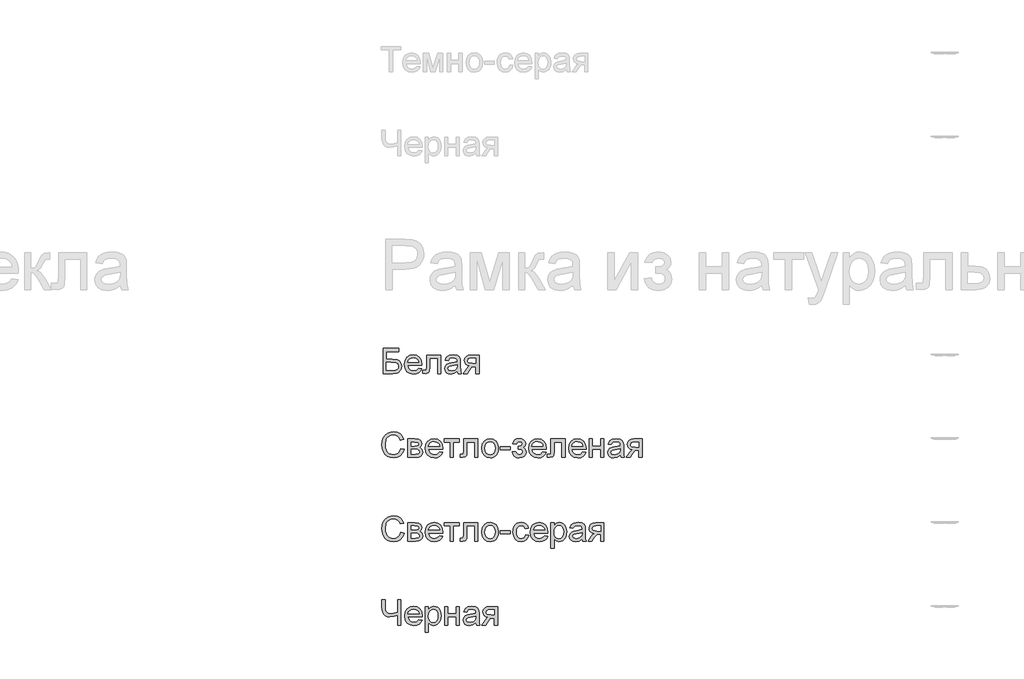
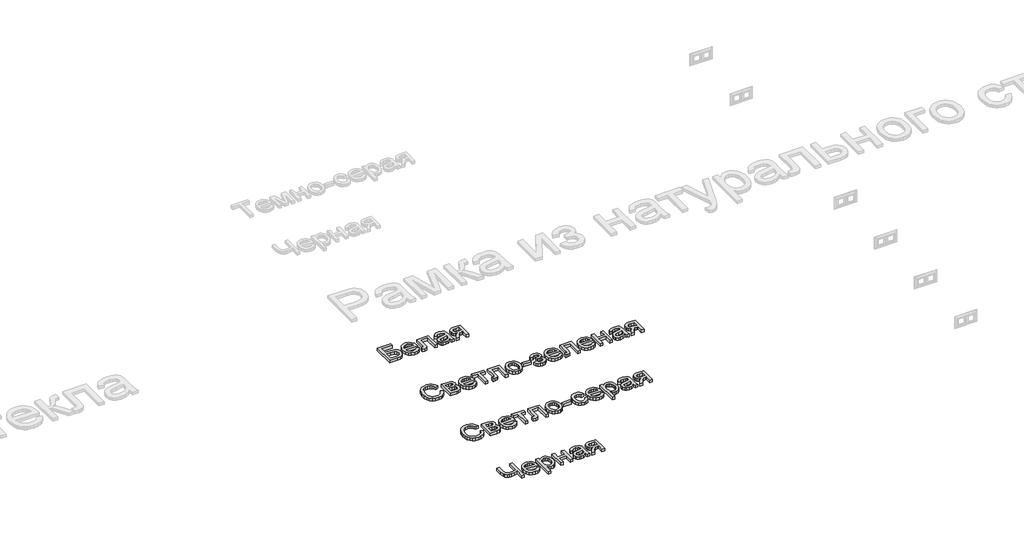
# One storey, part 103 of 168: 4 proxies.
"""IFC4 building model written with IfcOpenShell, lengths in millimetres."""

from ifc_helpers import new_model, si_unit, origin, origin_with_axes, place, context, project, spatial, polyline, outline, extrude, element, save

model = new_model("IFC4")

# Units and contexts
model_context = context("Model", 3, world=origin())
ifc_project = project(units=[si_unit("LENGTHUNIT", "METRE", prefix="MILLI")], contexts=[model_context])

# Site, building, storey
site = spatial("IfcSite", under=ifc_project)
building = spatial("IfcBuilding", under=site)
storey = spatial("IfcBuildingStorey", under=building, Name="Этаж 01", Elevation=0.0)

# Proxies
placement = place(None, origin())
element("IfcBuildingElementProxy", 1, Name="150", ObjectType="150", at=placement, inside=storey, context=model_context, shape_type="SweptSolid", body=[
    extrude(outline(polyline([(40282.6133883, -16697.7212163), (40376.791179, -16697.7212163), (40376.791179, -16716.5567745), (40301.4489464, -16716.5567745), (40301.4489464, -16761.2912251), (40336.7288298, -16761.2912251), (40367.8148584, -16765.1171979), (40378.2167218, -16770.6446248), (40386.3193227, -16779.5749603), (40391.53405, -16791.0712726), (40393.2722924, -16804.2966303), (40388.3242796, -16825.7625448), (40373.5538175, -16842.0781113), (40360.2824745, -16846.823789), (40340.1133441, -16848.4056816), (40282.6133883, -16848.4056816), (40282.6133883, -16697.7212163)]), holes=[polyline([(40301.4489464, -16829.5701234), (40341.8056013, -16829.5701234), (40356.0702257, -16828.015822), (40366.269754, -16823.3529177), (40372.3949892, -16815.5814105), (40374.4367343, -16804.7013005), (40369.7646329, -16789.9492325), (40356.7600044, -16782.0765578), (40328.3779085, -16780.1267833), (40301.4489464, -16780.1267833), (40301.4489464, -16829.5701234)])]), origin_with_axes(), (0.0, 0.0, 1.0), 20.0),
    extrude(outline(polyline([(40494.2926883, -16815.4434548), (40512.7603645, -16817.7978996), (40506.1062989, -16831.713036), (40495.4883048, -16842.1148995), (40481.1455055, -16848.5988196), (40463.3170243, -16850.7601263), (40441.2165134, -16847.0307226), (40424.2111682, -16835.8425114), (40413.3678464, -16817.9220597), (40409.7534058, -16793.9959345), (40413.4046346, -16769.2650674), (40424.358321, -16750.7698), (40441.13374, -16739.2366995), (40462.2501665, -16735.3923327), (40482.709004, -16739.2275025), (40499.0567601, -16750.7330118), (40509.7759218, -16769.191491), (40513.3489756, -16793.8855699), (40513.2386111, -16798.9623414), (40428.588964, -16798.9623414), (40431.8493181, -16813.0614189), (40439.4230887, -16823.4264941), (40450.3537825, -16829.8000497), (40463.6849063, -16831.9245682), (40482.1525825, -16827.9882308), (40494.2926883, -16815.4434548)]), holes=[polyline([(40428.588964, -16780.1267833), (40494.5134175, -16780.1267833), (40491.9658347, -16770.1755753), (40486.9718366, -16763.0570587), (40475.990559, -16756.4351828), (40462.1765901, -16754.2278908), (40449.4800628, -16755.9891259), (40438.9816303, -16761.272831), (40431.6837712, -16769.5087892), (40428.588964, -16780.1267833)])]), origin_with_axes(), (0.0, 0.0, 1.0), 20.0),
    extrude(outline(polyline([(40541.6023129, -16737.7467774), (40626.3623246, -16737.7467774), (40626.3623246, -16848.295317), (40607.5267664, -16848.295317), (40607.5267664, -16756.5823356), (40560.437871, -16756.5823356), (40560.437871, -16809.3734019), (40559.1686781, -16833.72719), (40552.1973143, -16844.0094917), (40535.716201, -16848.4056816), (40520.41231, -16847.4491884), (40520.41231, -16829.5701234), (40528.8368076, -16829.5701234), (40537.3532758, -16828.4112951), (40540.7561843, -16824.7324752), (40541.6023129, -16808.3065441), (40541.6023129, -16737.7467774)])), origin_with_axes(), (0.0, 0.0, 1.0), 20.0),
    extrude(outline(polyline([(40725.2490049, -16834.279013), (40706.9836638, -16847.0445182), (40686.8053364, -16850.7601263), (40671.0645855, -16848.5252432), (40659.45331, -16841.8205939), (40652.2934067, -16831.6394596), (40649.9067723, -16818.975122), (40653.5120158, -16804.0759012), (40662.9849772, -16793.2601705), (40676.1735467, -16787.079753), (40692.4707191, -16784.2470616), (40725.1386403, -16777.7723385), (40725.2490049, -16773.5784838), (40723.9522208, -16765.1723802), (40720.0618687, -16759.6725443), (40711.3614596, -16755.5890542), (40699.2397478, -16754.2278908), (40680.1834605, -16757.8515285), (40671.0967752, -16770.7090042), (40652.261217, -16768.3545594), (40660.4098032, -16749.9604597), (40676.8173402, -16739.1815172), (40701.667769, -16735.3923327), (40724.4948468, -16738.7400588), (40737.3891107, -16747.1461624), (40743.164858, -16759.9300617), (40744.084563, -16776.4111751), (40744.084563, -16799.8452582), (40745.0410562, -16832.5683617), (40748.7934526, -16848.4056816), (40729.9578944, -16848.4056816), (40725.2490049, -16834.279013)]), holes=[polyline([(40725.2490049, -16796.6078966), (40694.8619521, -16802.383644), (40678.6567502, -16805.4370645), (40671.3175044, -16810.4034715), (40668.7423304, -16817.6507468), (40674.3525308, -16827.841078), (40690.8152501, -16831.9245682), (40709.8715375, -16827.4180137), (40722.1587961, -16816.5103126), (40725.1386403, -16801.9421856), (40725.2490049, -16796.6078966)])]), origin_with_axes(), (0.0, 0.0, 1.0), 20.0),
    extrude(outline(polyline([(40854.7434672, -16737.7467774), (40854.7434672, -16848.4056816), (40835.907909, -16848.4056816), (40835.907909, -16806.0256757), (40825.6440014, -16806.0256757), (40811.6644855, -16808.4169087), (40798.5310983, -16824.4933519), (40783.5215129, -16848.4056816), (40761.7428988, -16848.4056816), (40780.6520333, -16818.1657816), (40789.0029546, -16807.3132627), (40796.6916883, -16802.4940086), (40783.8158185, -16798.5484742), (40774.7659214, -16791.0528785), (40769.4132384, -16781.0832765), (40767.6290107, -16769.7157228), (40770.0662289, -16756.8214589), (40777.3778836, -16746.6127335), (40789.3064573, -16739.9632664), (40805.5944326, -16737.7467774), (40854.7434672, -16737.7467774)]), holes=[polyline([(40835.907909, -16756.5823356), (40811.0758743, -16756.5823356), (40798.2505883, -16757.672186), (40790.9711233, -16760.9417372), (40786.4645689, -16771.1504626), (40788.1246364, -16778.32876), (40793.1048389, -16783.3089625), (40816.6308925, -16787.1901176), (40835.907909, -16787.1901176), (40835.907909, -16756.5823356)])]), origin_with_axes(), (0.0, 0.0, 1.0), 20.0),
])
element("IfcBuildingElementProxy", 2, Name="150", ObjectType="150", at=placement, inside=storey, context=model_context, shape_type="SweptSolid", body=[
    extrude(outline(polyline([(40388.5634029, -17294.8420631), (40407.398961, -17299.6981054), (40398.7077489, -17321.6468649), (40385.0685239, -17337.6819214), (40367.1526708, -17347.4905751), (40345.631574, -17350.7601263), (40323.7839821, -17348.2861199), (40306.4337475, -17340.8641007), (40293.1348133, -17328.751586), (40283.4411228, -17312.2060932), (40277.5228212, -17292.7543327), (40275.550054, -17271.9230148), (40277.7803386, -17249.9512626), (40284.4711923, -17230.9777487), (40295.2731274, -17215.6048798), (40309.8366559, -17204.4350628), (40327.1087156, -17197.6338444), (40346.0362442, -17195.3667716), (40366.6882197, -17198.3006305), (40383.7625428, -17207.1022072), (40396.7257847, -17221.2288758), (40405.0445163, -17240.1380104), (40386.2089581, -17244.6261707), (40379.6790527, -17230.8903767), (40370.7579143, -17221.4679991), (40359.3351784, -17216.0187471), (40345.3004803, -17214.2023297), (40329.1228695, -17216.2164837), (40315.8331324, -17222.2589454), (40305.7485672, -17231.6951186), (40299.1864722, -17243.8904067), (40294.3856121, -17271.8862266), (40295.8065563, -17289.2870449), (40300.0693889, -17304.3334185), (40307.3350583, -17316.4505318), (40317.7645129, -17325.063569), (40330.2679022, -17330.2093184), (40343.7553759, -17331.9245682), (40359.4777326, -17329.5885175), (40372.5789302, -17322.5803655), (40382.4703573, -17310.9736886), (40388.5634029, -17294.8420631)])), origin_with_axes(), (0.0, 0.0, 1.0), 20.0),
    extrude(outline(polyline([(40430.9434087, -17237.7467774), (40472.4404978, -17237.7467774), (40495.1939992, -17240.2667691), (40507.9962926, -17249.5006072), (40513.3489756, -17265.5954445), (40510.1116141, -17278.6736494), (40500.3627412, -17287.999458), (40513.0178819, -17298.2081833), (40518.0578652, -17315.9584896), (40514.8664889, -17330.3150845), (40507.2789227, -17340.4226423), (40495.2675756, -17346.4099217), (40478.8048563, -17348.4056816), (40430.9434087, -17348.4056816), (40430.9434087, -17237.7467774)]), holes=[polyline([(40449.7789669, -17280.1267833), (40468.3937958, -17280.1267833), (40483.7528691, -17279.1702901), (40491.2208736, -17275.3443173), (40494.5134175, -17268.4281358), (40493.0694807, -17262.8087383), (40488.7376702, -17259.1942977), (40468.982407, -17256.5823356), (40449.7789669, -17256.5823356), (40449.7789669, -17280.1267833)]), polyline([(40449.7789669, -17329.5701234), (40472.8819562, -17329.5701234), (40493.3729833, -17326.167215), (40497.6128233, -17321.5273033), (40499.222307, -17314.4133852), (40496.0033396, -17305.345094), (40487.6156301, -17300.0659874), (40471.0425462, -17298.9623414), (40449.7789669, -17298.9623414), (40449.7789669, -17329.5701234)])]), origin_with_axes(), (0.0, 0.0, 1.0), 20.0),
    extrude(outline(polyline([(40619.0782611, -17315.4434548), (40637.5459372, -17317.7978996), (40630.8918716, -17331.713036), (40620.2738775, -17342.1148995), (40605.9310783, -17348.5988196), (40588.1025971, -17350.7601263), (40566.0020862, -17347.0307226), (40548.996741, -17335.8425114), (40538.1534192, -17317.9220597), (40534.5389786, -17293.9959345), (40538.1902074, -17269.2650674), (40549.1438938, -17250.7698), (40565.9193128, -17239.2366995), (40587.0357393, -17235.3923327), (40607.4945767, -17239.2275025), (40623.8423329, -17250.7330118), (40634.5614945, -17269.191491), (40638.1345484, -17293.8855699), (40638.0241838, -17298.9623414), (40553.3745367, -17298.9623414), (40556.6348909, -17313.0614189), (40564.2086615, -17323.4264941), (40575.1393553, -17329.8000497), (40588.4704791, -17331.9245682), (40606.9381552, -17327.9882308), (40619.0782611, -17315.4434548)]), holes=[polyline([(40553.3745367, -17280.1267833), (40619.2989903, -17280.1267833), (40616.7514074, -17270.1755753), (40611.7574094, -17263.0570587), (40600.7761318, -17256.4351828), (40586.9621629, -17254.2278908), (40574.2656355, -17255.9891259), (40563.7672031, -17261.272831), (40556.469344, -17269.5087892), (40553.3745367, -17280.1267833)])]), origin_with_axes(), (0.0, 0.0, 1.0), 20.0),
    extrude(outline(polyline([(40647.5523275, -17237.7467774), (40737.0212287, -17237.7467774), (40737.0212287, -17256.5823356), (40701.7045572, -17256.5823356), (40701.7045572, -17348.4056816), (40682.868999, -17348.4056816), (40682.868999, -17256.5823356), (40647.5523275, -17256.5823356), (40647.5523275, -17237.7467774)])), origin_with_axes(), (0.0, 0.0, 1.0), 20.0),
    extrude(outline(polyline([(40762.9201212, -17237.7467774), (40847.6801329, -17237.7467774), (40847.6801329, -17348.295317), (40828.8445747, -17348.295317), (40828.8445747, -17256.5823356), (40781.7556793, -17256.5823356), (40781.7556793, -17309.3734019), (40780.4864864, -17333.72719), (40773.5151226, -17344.0094917), (40757.0340093, -17348.4056816), (40741.7301183, -17347.4491884), (40741.7301183, -17329.5701234), (40750.1546159, -17329.5701234), (40758.6710841, -17328.4112951), (40762.0739926, -17324.7324752), (40762.9201212, -17308.3065441), (40762.9201212, -17237.7467774)])), origin_with_axes(), (0.0, 0.0, 1.0), 20.0),
    extrude(outline(polyline([(40871.2245806, -17293.0762295), (40875.2988737, -17266.3955878), (40887.5217529, -17247.6428031), (40902.6233088, -17238.4549503), (40920.7047089, -17235.3923327), (40940.4921617, -17239.1217364), (40956.2972919, -17250.3099476), (40966.6577686, -17268.0740494), (40970.1112609, -17291.5311251), (40968.5845506, -17310.5598213), (40964.0044197, -17325.0451749), (40956.5042256, -17335.8930952), (40946.2173253, -17344.0094917), (40933.9990445, -17349.0724677), (40920.7047089, -17350.7601263), (40900.6781328, -17347.0445182), (40884.8913967, -17335.8976937), (40874.6412846, -17317.7611114), (40871.2245806, -17293.0762295)]), holes=[polyline([(40890.0601387, -17293.0394413), (40892.2398395, -17310.0861732), (40898.778942, -17322.2308776), (40908.6197854, -17329.5011455), (40920.7047089, -17331.9245682), (40932.7344502, -17329.48735), (40942.5568994, -17322.1756953), (40949.0960019, -17309.8700426), (40951.2757027, -17292.4508301), (40949.0822063, -17275.9007388), (40942.5017171, -17263.9215814), (40932.6654723, -17256.6513134), (40920.7047089, -17254.2278908), (40908.6197854, -17256.6421164), (40898.778942, -17263.8847932), (40892.2398395, -17276.0019064), (40890.0601387, -17293.0394413)])]), origin_with_axes(), (0.0, 0.0, 1.0), 20.0),
    extrude(outline(polyline([(40981.8834847, -17303.671231), (40981.8834847, -17284.8356728), (41040.7446039, -17284.8356728), (41040.7446039, -17303.671231), (40981.8834847, -17303.671231)])), origin_with_axes(), (0.0, 0.0, 1.0), 20.0),
    extrude(outline(polyline([(41087.8334993, -17298.9623414), (41087.8334993, -17280.1267833), (41102.6959319, -17279.3910193), (41110.2007246, -17275.473076), (41113.7323918, -17267.2877016), (41109.0051081, -17257.7779521), (41096.80982, -17254.2278908), (41084.2098617, -17257.759558), (41076.0612755, -17268.3545594), (41054.8712725, -17266.0001146), (41060.49067, -17252.60921), (41069.0347294, -17243.0442782), (41080.5034506, -17237.305319), (41094.8968336, -17235.3923327), (41110.642183, -17237.7237848), (41122.5615597, -17244.7181412), (41130.0663524, -17254.9498592), (41132.5679499, -17266.993396), (41129.0086916, -17278.6920435), (41118.3309167, -17287.7419406), (41130.7837223, -17299.4773762), (41134.9223947, -17316.3631598), (41132.296637, -17330.2277125), (41124.4193637, -17341.2135886), (41111.8240039, -17348.3734919), (41095.0439864, -17350.7601263), (41078.6318509, -17348.5528344), (41066.0732793, -17341.9309585), (41057.3682716, -17330.8944986), (41052.5168278, -17315.4434548), (41073.7068307, -17313.08901), (41082.2049048, -17326.9949494), (41096.8466082, -17331.9245682), (41110.6053948, -17327.1972845), (41116.0868365, -17315.112361), (41112.6839281, -17305.2163353), (41105.4366528, -17299.9188346), (41091.5123193, -17298.8519768), (41087.8334993, -17298.9623414)])), origin_with_axes(), (0.0, 0.0, 1.0), 20.0),
    extrude(outline(polyline([(41235.9427906, -17315.4434548), (41254.4104667, -17317.7978996), (41247.7564011, -17331.713036), (41237.1384071, -17342.1148995), (41222.7956078, -17348.5988196), (41204.9671266, -17350.7601263), (41182.8666157, -17347.0307226), (41165.8612705, -17335.8425114), (41155.0179487, -17317.9220597), (41151.4035081, -17293.9959345), (41155.0547369, -17269.2650674), (41166.0084233, -17250.7698), (41182.7838423, -17239.2366995), (41203.9002688, -17235.3923327), (41224.3591063, -17239.2275025), (41240.7068624, -17250.7330118), (41251.426024, -17269.191491), (41254.9990779, -17293.8855699), (41254.8887133, -17298.9623414), (41170.2390662, -17298.9623414), (41173.4994204, -17313.0614189), (41181.073191, -17323.4264941), (41192.0038848, -17329.8000497), (41205.3350086, -17331.9245682), (41223.8026847, -17327.9882308), (41235.9427906, -17315.4434548)]), holes=[polyline([(41170.2390662, -17280.1267833), (41236.1635198, -17280.1267833), (41233.615937, -17270.1755753), (41228.6219389, -17263.0570587), (41217.6406613, -17256.4351828), (41203.8266924, -17254.2278908), (41191.130165, -17255.9891259), (41180.6317326, -17261.272831), (41173.3338735, -17269.5087892), (41170.2390662, -17280.1267833)])]), origin_with_axes(), (0.0, 0.0, 1.0), 20.0),
    extrude(outline(polyline([(41283.2524152, -17237.7467774), (41368.0124268, -17237.7467774), (41368.0124268, -17348.295317), (41349.1768687, -17348.295317), (41349.1768687, -17256.5823356), (41302.0879733, -17256.5823356), (41302.0879733, -17309.3734019), (41300.8187804, -17333.72719), (41293.8474166, -17344.0094917), (41277.3663032, -17348.4056816), (41262.0624122, -17347.4491884), (41262.0624122, -17329.5701234), (41270.4869099, -17329.5701234), (41279.0033781, -17328.4112951), (41282.4062866, -17324.7324752), (41283.2524152, -17308.3065441), (41283.2524152, -17237.7467774)])), origin_with_axes(), (0.0, 0.0, 1.0), 20.0),
    extrude(outline(polyline([(41473.7417123, -17315.4434548), (41492.2093884, -17317.7978996), (41485.5553228, -17331.713036), (41474.9373287, -17342.1148995), (41460.5945295, -17348.5988196), (41442.7660483, -17350.7601263), (41420.6655374, -17347.0307226), (41403.6601922, -17335.8425114), (41392.8168704, -17317.9220597), (41389.2024298, -17293.9959345), (41392.8536586, -17269.2650674), (41403.807345, -17250.7698), (41420.582764, -17239.2366995), (41441.6991905, -17235.3923327), (41462.1580279, -17239.2275025), (41478.5057841, -17250.7330118), (41489.2249457, -17269.191491), (41492.7979996, -17293.8855699), (41492.687635, -17298.9623414), (41408.0379879, -17298.9623414), (41411.2983421, -17313.0614189), (41418.8721127, -17323.4264941), (41429.8028065, -17329.8000497), (41443.1339303, -17331.9245682), (41461.6016064, -17327.9882308), (41473.7417123, -17315.4434548)]), holes=[polyline([(41408.0379879, -17280.1267833), (41473.9624415, -17280.1267833), (41471.4148586, -17270.1755753), (41466.4208606, -17263.0570587), (41455.439583, -17256.4351828), (41441.6256141, -17254.2278908), (41428.9290867, -17255.9891259), (41418.4306543, -17261.272831), (41411.1327952, -17269.5087892), (41408.0379879, -17280.1267833)])]), origin_with_axes(), (0.0, 0.0, 1.0), 20.0),
    extrude(outline(polyline([(41511.6335578, -17237.7467774), (41530.4691159, -17237.7467774), (41530.4691159, -17280.1267833), (41579.9124561, -17280.1267833), (41579.9124561, -17237.7467774), (41598.7480142, -17237.7467774), (41598.7480142, -17348.4056816), (41579.9124561, -17348.4056816), (41579.9124561, -17298.9623414), (41530.4691159, -17298.9623414), (41530.4691159, -17348.4056816), (41511.6335578, -17348.4056816), (41511.6335578, -17237.7467774)])), origin_with_axes(), (0.0, 0.0, 1.0), 20.0),
    extrude(outline(polyline([(41697.6346945, -17334.279013), (41679.3693535, -17347.0445182), (41659.191026, -17350.7601263), (41643.4502752, -17348.5252432), (41631.8389997, -17341.8205939), (41624.6790964, -17331.6394596), (41622.2924619, -17318.975122), (41625.8977055, -17304.0759012), (41635.3706668, -17293.2601705), (41648.5592364, -17287.079753), (41664.8564088, -17284.2470616), (41697.5243299, -17277.7723385), (41697.6346945, -17273.5784838), (41696.3379105, -17265.1723802), (41692.4475584, -17259.6725443), (41683.7471492, -17255.5890542), (41671.6254375, -17254.2278908), (41652.5691501, -17257.8515285), (41643.4824648, -17270.7090042), (41624.6469067, -17268.3545594), (41632.7954929, -17249.9604597), (41649.2030299, -17239.1815172), (41674.0534586, -17235.3923327), (41696.8805364, -17238.7400588), (41709.7748004, -17247.1461624), (41715.5505477, -17259.9300617), (41716.4702527, -17276.4111751), (41716.4702527, -17299.8452582), (41717.4267459, -17332.5683617), (41721.1791422, -17348.4056816), (41702.3435841, -17348.4056816), (41697.6346945, -17334.279013)]), holes=[polyline([(41697.6346945, -17296.6078966), (41667.2476417, -17302.383644), (41651.0424398, -17305.4370645), (41643.703194, -17310.4034715), (41641.1280201, -17317.6507468), (41646.7382205, -17327.841078), (41663.2009398, -17331.9245682), (41682.2572271, -17327.4180137), (41694.5444858, -17316.5103126), (41697.5243299, -17301.9421856), (41697.6346945, -17296.6078966)])]), origin_with_axes(), (0.0, 0.0, 1.0), 20.0),
    extrude(outline(polyline([(41827.1291568, -17237.7467774), (41827.1291568, -17348.4056816), (41808.2935987, -17348.4056816), (41808.2935987, -17306.0256757), (41798.029691, -17306.0256757), (41784.0501752, -17308.4169087), (41770.916788, -17324.4933519), (41755.9072026, -17348.4056816), (41734.1285884, -17348.4056816), (41753.037723, -17318.1657816), (41761.3886443, -17307.3132627), (41769.077378, -17302.4940086), (41756.2015082, -17298.5484742), (41747.1516111, -17291.0528785), (41741.798928, -17281.0832765), (41740.0147004, -17269.7157228), (41742.4519186, -17256.8214589), (41749.7635732, -17246.6127335), (41761.6921469, -17239.9632664), (41777.9801223, -17237.7467774), (41827.1291568, -17237.7467774)]), holes=[polyline([(41808.2935987, -17256.5823356), (41783.461564, -17256.5823356), (41770.6362779, -17257.672186), (41763.356813, -17260.9417372), (41758.8502585, -17271.1504626), (41760.510326, -17278.32876), (41765.4905285, -17283.3089625), (41789.0165821, -17287.1901176), (41808.2935987, -17287.1901176), (41808.2935987, -17256.5823356)])]), origin_with_axes(), (0.0, 0.0, 1.0), 20.0),
])
element("IfcBuildingElementProxy", 3, Name="150", ObjectType="150", at=placement, inside=storey, context=model_context, shape_type="SweptSolid", body=[
    extrude(outline(polyline([(40388.5634029, -17794.8420631), (40407.398961, -17799.6981054), (40398.7077489, -17821.6468649), (40385.0685239, -17837.6819214), (40367.1526708, -17847.4905751), (40345.631574, -17850.7601263), (40323.7839821, -17848.2861199), (40306.4337475, -17840.8641007), (40293.1348133, -17828.751586), (40283.4411228, -17812.2060932), (40277.5228212, -17792.7543327), (40275.550054, -17771.9230148), (40277.7803386, -17749.9512626), (40284.4711923, -17730.9777487), (40295.2731274, -17715.6048798), (40309.8366559, -17704.4350628), (40327.1087156, -17697.6338444), (40346.0362442, -17695.3667716), (40366.6882197, -17698.3006305), (40383.7625428, -17707.1022072), (40396.7257847, -17721.2288758), (40405.0445163, -17740.1380104), (40386.2089581, -17744.6261707), (40379.6790527, -17730.8903767), (40370.7579143, -17721.4679991), (40359.3351784, -17716.0187471), (40345.3004803, -17714.2023297), (40329.1228695, -17716.2164837), (40315.8331324, -17722.2589454), (40305.7485672, -17731.6951186), (40299.1864722, -17743.8904067), (40294.3856121, -17771.8862266), (40295.8065563, -17789.2870449), (40300.0693889, -17804.3334185), (40307.3350583, -17816.4505318), (40317.7645129, -17825.063569), (40330.2679022, -17830.2093184), (40343.7553759, -17831.9245682), (40359.4777326, -17829.5885175), (40372.5789302, -17822.5803655), (40382.4703573, -17810.9736886), (40388.5634029, -17794.8420631)])), origin_with_axes(), (0.0, 0.0, 1.0), 20.0),
    extrude(outline(polyline([(40430.9434087, -17737.7467774), (40472.4404978, -17737.7467774), (40495.1939992, -17740.2667691), (40507.9962926, -17749.5006072), (40513.3489756, -17765.5954445), (40510.1116141, -17778.6736494), (40500.3627412, -17787.999458), (40513.0178819, -17798.2081833), (40518.0578652, -17815.9584896), (40514.8664889, -17830.3150845), (40507.2789227, -17840.4226423), (40495.2675756, -17846.4099217), (40478.8048563, -17848.4056816), (40430.9434087, -17848.4056816), (40430.9434087, -17737.7467774)]), holes=[polyline([(40449.7789669, -17780.1267833), (40468.3937958, -17780.1267833), (40483.7528691, -17779.1702901), (40491.2208736, -17775.3443173), (40494.5134175, -17768.4281358), (40493.0694807, -17762.8087383), (40488.7376702, -17759.1942977), (40468.982407, -17756.5823356), (40449.7789669, -17756.5823356), (40449.7789669, -17780.1267833)]), polyline([(40449.7789669, -17829.5701234), (40472.8819562, -17829.5701234), (40493.3729833, -17826.167215), (40497.6128233, -17821.5273033), (40499.222307, -17814.4133852), (40496.0033396, -17805.345094), (40487.6156301, -17800.0659874), (40471.0425462, -17798.9623414), (40449.7789669, -17798.9623414), (40449.7789669, -17829.5701234)])]), origin_with_axes(), (0.0, 0.0, 1.0), 20.0),
    extrude(outline(polyline([(40619.0782611, -17815.4434548), (40637.5459372, -17817.7978996), (40630.8918716, -17831.713036), (40620.2738775, -17842.1148995), (40605.9310783, -17848.5988196), (40588.1025971, -17850.7601263), (40566.0020862, -17847.0307226), (40548.996741, -17835.8425114), (40538.1534192, -17817.9220597), (40534.5389786, -17793.9959345), (40538.1902074, -17769.2650674), (40549.1438938, -17750.7698), (40565.9193128, -17739.2366995), (40587.0357393, -17735.3923327), (40607.4945767, -17739.2275025), (40623.8423329, -17750.7330118), (40634.5614945, -17769.191491), (40638.1345484, -17793.8855699), (40638.0241838, -17798.9623414), (40553.3745367, -17798.9623414), (40556.6348909, -17813.0614189), (40564.2086615, -17823.4264941), (40575.1393553, -17829.8000497), (40588.4704791, -17831.9245682), (40606.9381552, -17827.9882308), (40619.0782611, -17815.4434548)]), holes=[polyline([(40553.3745367, -17780.1267833), (40619.2989903, -17780.1267833), (40616.7514074, -17770.1755753), (40611.7574094, -17763.0570587), (40600.7761318, -17756.4351828), (40586.9621629, -17754.2278908), (40574.2656355, -17755.9891259), (40563.7672031, -17761.272831), (40556.469344, -17769.5087892), (40553.3745367, -17780.1267833)])]), origin_with_axes(), (0.0, 0.0, 1.0), 20.0),
    extrude(outline(polyline([(40647.5523275, -17737.7467774), (40737.0212287, -17737.7467774), (40737.0212287, -17756.5823356), (40701.7045572, -17756.5823356), (40701.7045572, -17848.4056816), (40682.868999, -17848.4056816), (40682.868999, -17756.5823356), (40647.5523275, -17756.5823356), (40647.5523275, -17737.7467774)])), origin_with_axes(), (0.0, 0.0, 1.0), 20.0),
    extrude(outline(polyline([(40762.9201212, -17737.7467774), (40847.6801329, -17737.7467774), (40847.6801329, -17848.295317), (40828.8445747, -17848.295317), (40828.8445747, -17756.5823356), (40781.7556793, -17756.5823356), (40781.7556793, -17809.3734019), (40780.4864864, -17833.72719), (40773.5151226, -17844.0094917), (40757.0340093, -17848.4056816), (40741.7301183, -17847.4491884), (40741.7301183, -17829.5701234), (40750.1546159, -17829.5701234), (40758.6710841, -17828.4112951), (40762.0739926, -17824.7324752), (40762.9201212, -17808.3065441), (40762.9201212, -17737.7467774)])), origin_with_axes(), (0.0, 0.0, 1.0), 20.0),
    extrude(outline(polyline([(40871.2245806, -17793.0762295), (40875.2988737, -17766.3955878), (40887.5217529, -17747.6428031), (40902.6233088, -17738.4549503), (40920.7047089, -17735.3923327), (40940.4921617, -17739.1217364), (40956.2972919, -17750.3099476), (40966.6577686, -17768.0740494), (40970.1112609, -17791.5311251), (40968.5845506, -17810.5598213), (40964.0044197, -17825.0451749), (40956.5042256, -17835.8930952), (40946.2173253, -17844.0094917), (40933.9990445, -17849.0724677), (40920.7047089, -17850.7601263), (40900.6781328, -17847.0445182), (40884.8913967, -17835.8976937), (40874.6412846, -17817.7611114), (40871.2245806, -17793.0762295)]), holes=[polyline([(40890.0601387, -17793.0394413), (40892.2398395, -17810.0861732), (40898.778942, -17822.2308776), (40908.6197854, -17829.5011455), (40920.7047089, -17831.9245682), (40932.7344502, -17829.48735), (40942.5568994, -17822.1756953), (40949.0960019, -17809.8700426), (40951.2757027, -17792.4508301), (40949.0822063, -17775.9007388), (40942.5017171, -17763.9215814), (40932.6654723, -17756.6513134), (40920.7047089, -17754.2278908), (40908.6197854, -17756.6421164), (40898.778942, -17763.8847932), (40892.2398395, -17776.0019064), (40890.0601387, -17793.0394413)])]), origin_with_axes(), (0.0, 0.0, 1.0), 20.0),
    extrude(outline(polyline([(40981.8834847, -17803.671231), (40981.8834847, -17784.8356728), (41040.7446039, -17784.8356728), (41040.7446039, -17803.671231), (40981.8834847, -17803.671231)])), origin_with_axes(), (0.0, 0.0, 1.0), 20.0),
    extrude(outline(polyline([(41132.5679499, -17808.3801205), (41151.4035081, -17810.7345653), (41146.1519926, -17827.4869916), (41136.2835581, -17840.1467308), (41122.7271066, -17848.1067774), (41106.4115401, -17850.7601263), (41086.3757669, -17847.0583138), (41070.7085924, -17835.952876), (41060.5964361, -17817.9312568), (41057.2257173, -17793.4808997), (41058.6650556, -17776.7192763), (41062.9830705, -17762.192536), (41070.2487399, -17750.4616989), (41080.5310417, -17742.087785), (41092.8320959, -17737.0661957), (41106.1540227, -17735.3923327), (41122.0695175, -17737.6915951), (41134.793636, -17744.5893825), (41143.921708, -17755.7178129), (41149.0490633, -17770.7090042), (41130.2135052, -17773.063449), (41121.4763078, -17758.9551744), (41106.3011755, -17754.2278908), (41094.12888, -17756.5547444), (41084.4673791, -17763.5353053), (41078.1628014, -17775.5466524), (41076.0612755, -17792.9658649), (41078.1168161, -17810.6196021), (41084.2834381, -17822.672336), (41093.770195, -17829.6115101), (41105.7861407, -17831.9245682), (41115.5396121, -17830.4806314), (41123.5364469, -17826.1488209), (41129.353581, -17818.8187721), (41132.5679499, -17808.3801205)])), origin_with_axes(), (0.0, 0.0, 1.0), 20.0),
    extrude(outline(polyline([(41245.3605697, -17815.4434548), (41263.8282458, -17817.7978996), (41257.1741802, -17831.713036), (41246.5561861, -17842.1148995), (41232.2133868, -17848.5988196), (41214.3849057, -17850.7601263), (41192.2843948, -17847.0307226), (41175.2790496, -17835.8425114), (41164.4357278, -17817.9220597), (41160.8212872, -17793.9959345), (41164.472516, -17769.2650674), (41175.4262024, -17750.7698), (41192.2016213, -17739.2366995), (41213.3180479, -17735.3923327), (41233.7768853, -17739.2275025), (41250.1246415, -17750.7330118), (41260.8438031, -17769.191491), (41264.416857, -17793.8855699), (41264.3064924, -17798.9623414), (41179.6568453, -17798.9623414), (41182.9171995, -17813.0614189), (41190.4909701, -17823.4264941), (41201.4216639, -17829.8000497), (41214.7527877, -17831.9245682), (41233.2204638, -17827.9882308), (41245.3605697, -17815.4434548)]), holes=[polyline([(41179.6568453, -17780.1267833), (41245.5812988, -17780.1267833), (41243.033716, -17770.1755753), (41238.0397179, -17763.0570587), (41227.0584404, -17756.4351828), (41213.2444715, -17754.2278908), (41200.5479441, -17755.9891259), (41190.0495117, -17761.272831), (41182.7516526, -17769.5087892), (41179.6568453, -17780.1267833)])]), origin_with_axes(), (0.0, 0.0, 1.0), 20.0),
    extrude(outline(polyline([(41283.2524152, -17890.7856874), (41283.2524152, -17737.7467774), (41302.0879733, -17737.7467774), (41302.0879733, -17756.2144536), (41315.1109959, -17740.5978629), (41332.6957553, -17735.3923327), (41345.4336694, -17737.2133485), (41356.5712968, -17742.6763962), (41365.639588, -17751.4503817), (41372.1694934, -17763.2042115), (41377.4302059, -17792.2301009), (41375.9448824, -17808.3387338), (41371.4889117, -17822.7459124), (41364.2048482, -17834.7204713), (41354.2352461, -17843.5312451), (41342.6239707, -17848.952906), (41330.4148869, -17850.7601263), (41314.0257441, -17845.9224781), (41302.0879733, -17833.6904018), (41302.0879733, -17890.7856874), (41283.2524152, -17890.7856874)]), holes=[polyline([(41302.0879733, -17793.9591463), (41304.1251199, -17810.8449299), (41310.2365595, -17822.6539419), (41319.2542669, -17829.6069116), (41330.0102167, -17831.9245682), (41340.9409105, -17829.5241382), (41350.1885442, -17822.3228481), (41356.4931219, -17810.0815747), (41358.5946478, -17792.5611947), (41356.5437056, -17775.7673816), (41350.3908793, -17763.7928227), (41341.3869674, -17756.6191238), (41330.7827689, -17754.2278908), (41320.1371837, -17756.7708751), (41310.7883825, -17764.399828), (41304.2630756, -17776.8756261), (41302.0879733, -17793.9591463)])]), origin_with_axes(), (0.0, 0.0, 1.0), 20.0),
    extrude(outline(polyline([(41469.2535519, -17834.279013), (41450.9882109, -17847.0445182), (41430.8098834, -17850.7601263), (41415.0691326, -17848.5252432), (41403.4578571, -17841.8205939), (41396.2979537, -17831.6394596), (41393.9113193, -17818.975122), (41397.5165629, -17804.0759012), (41406.9895242, -17793.2601705), (41420.1780938, -17787.079753), (41436.4752661, -17784.2470616), (41469.1431873, -17777.7723385), (41469.2535519, -17773.5784838), (41467.9567679, -17765.1723802), (41464.0664158, -17759.6725443), (41455.3660066, -17755.5890542), (41443.2442949, -17754.2278908), (41424.1880075, -17757.8515285), (41415.1013222, -17770.7090042), (41396.2657641, -17768.3545594), (41404.4143503, -17749.9604597), (41420.8218873, -17739.1815172), (41445.672316, -17735.3923327), (41468.4993938, -17738.7400588), (41481.3936578, -17747.1461624), (41487.1694051, -17759.9300617), (41488.0891101, -17776.4111751), (41488.0891101, -17799.8452582), (41489.0456033, -17832.5683617), (41492.7979996, -17848.4056816), (41473.9624415, -17848.4056816), (41469.2535519, -17834.279013)]), holes=[polyline([(41469.2535519, -17796.6078966), (41438.8664991, -17802.383644), (41422.6612972, -17805.4370645), (41415.3220514, -17810.4034715), (41412.7468775, -17817.6507468), (41418.3570779, -17827.841078), (41434.8197972, -17831.9245682), (41453.8760845, -17827.4180137), (41466.1633432, -17816.5103126), (41469.1431873, -17801.9421856), (41469.2535519, -17796.6078966)])]), origin_with_axes(), (0.0, 0.0, 1.0), 20.0),
    extrude(outline(polyline([(41598.7480142, -17737.7467774), (41598.7480142, -17848.4056816), (41579.9124561, -17848.4056816), (41579.9124561, -17806.0256757), (41569.6485484, -17806.0256757), (41555.6690326, -17808.4169087), (41542.5356454, -17824.4933519), (41527.52606, -17848.4056816), (41505.7474458, -17848.4056816), (41524.6565804, -17818.1657816), (41533.0075017, -17807.3132627), (41540.6962354, -17802.4940086), (41527.8203655, -17798.5484742), (41518.7704685, -17791.0528785), (41513.4177854, -17781.0832765), (41511.6335578, -17769.7157228), (41514.070776, -17756.8214589), (41521.3824306, -17746.6127335), (41533.3110043, -17739.9632664), (41549.5989797, -17737.7467774), (41598.7480142, -17737.7467774)]), holes=[polyline([(41579.9124561, -17756.5823356), (41555.0804214, -17756.5823356), (41542.2551353, -17757.672186), (41534.9756704, -17760.9417372), (41530.4691159, -17771.1504626), (41532.1291834, -17778.32876), (41537.1093859, -17783.3089625), (41560.6354395, -17787.1901176), (41579.9124561, -17787.1901176), (41579.9124561, -17756.5823356)])]), origin_with_axes(), (0.0, 0.0, 1.0), 20.0),
])
element("IfcBuildingElementProxy", 4, Name="150", ObjectType="150", at=placement, inside=storey, context=model_context, shape_type="SweptSolid", body=[
    extrude(outline(polyline([(40388.5634029, -18348.4056816), (40369.7278447, -18348.4056816), (40369.7278447, -18288.0730344), (40344.7486573, -18296.2400147), (40323.0804077, -18298.9623414), (40308.3973176, -18297.0999388), (40295.5444404, -18291.512731), (40285.5840354, -18283.0606422), (40279.5783618, -18272.6035965), (40275.550054, -18242.6028198), (40275.550054, -18197.7212163), (40294.3856121, -18197.7212163), (40294.3856121, -18240.064434), (40296.6480864, -18260.4313009), (40303.4355092, -18272.3828673), (40313.3959142, -18278.1908043), (40325.1773351, -18280.1267833), (40346.909964, -18277.7907326), (40369.7278447, -18270.7825806), (40369.7278447, -18197.7212163), (40388.5634029, -18197.7212163), (40388.5634029, -18348.4056816)])), origin_with_axes(), (0.0, 0.0, 1.0), 20.0),
    extrude(outline(polyline([(40496.6471331, -18315.4434548), (40515.1148092, -18317.7978996), (40508.4607436, -18331.713036), (40497.8427496, -18342.1148995), (40483.4999503, -18348.5988196), (40465.6714691, -18350.7601263), (40443.5709582, -18347.0307226), (40426.565613, -18335.8425114), (40415.7222912, -18317.9220597), (40412.1078506, -18293.9959345), (40415.7590794, -18269.2650674), (40426.7127658, -18250.7698), (40443.4881848, -18239.2366995), (40464.6046113, -18235.3923327), (40485.0634487, -18239.2275025), (40501.4112049, -18250.7330118), (40512.1303665, -18269.191491), (40515.7034204, -18293.8855699), (40515.5930558, -18298.9623414), (40430.9434087, -18298.9623414), (40434.2037629, -18313.0614189), (40441.7775335, -18323.4264941), (40452.7082273, -18329.8000497), (40466.0393511, -18331.9245682), (40484.5070272, -18327.9882308), (40496.6471331, -18315.4434548)]), holes=[polyline([(40430.9434087, -18280.1267833), (40496.8678623, -18280.1267833), (40494.3202794, -18270.1755753), (40489.3262814, -18263.0570587), (40478.3450038, -18256.4351828), (40464.5310349, -18254.2278908), (40451.8345075, -18255.9891259), (40441.3360751, -18261.272831), (40434.038216, -18269.5087892), (40430.9434087, -18280.1267833)])]), origin_with_axes(), (0.0, 0.0, 1.0), 20.0),
    extrude(outline(polyline([(40534.5389786, -18390.7856874), (40534.5389786, -18237.7467774), (40553.3745367, -18237.7467774), (40553.3745367, -18256.2144536), (40566.3975594, -18240.5978629), (40583.9823187, -18235.3923327), (40596.7202328, -18237.2133485), (40607.8578602, -18242.6763962), (40616.9261514, -18251.4503817), (40623.4560568, -18263.2042115), (40628.7167693, -18292.2301009), (40627.2314458, -18308.3387338), (40622.7754751, -18322.7459124), (40615.4914116, -18334.7204713), (40605.5218095, -18343.5312451), (40593.9105341, -18348.952906), (40581.7014504, -18350.7601263), (40565.3123075, -18345.9224781), (40553.3745367, -18333.6904018), (40553.3745367, -18390.7856874), (40534.5389786, -18390.7856874)]), holes=[polyline([(40553.3745367, -18293.9591463), (40555.4116833, -18310.8449299), (40561.5231229, -18322.6539419), (40570.5408303, -18329.6069116), (40581.2967802, -18331.9245682), (40592.2274739, -18329.5241382), (40601.4751076, -18322.3228481), (40607.7796853, -18310.0815747), (40609.8812112, -18292.5611947), (40607.8302691, -18275.7673816), (40601.6774427, -18263.7928227), (40592.6735309, -18256.6191238), (40582.0693323, -18254.2278908), (40571.4237471, -18256.7708751), (40562.0749459, -18264.399828), (40555.549639, -18276.8756261), (40553.3745367, -18293.9591463)])]), origin_with_axes(), (0.0, 0.0, 1.0), 20.0),
    extrude(outline(polyline([(40649.9067723, -18237.7467774), (40668.7423304, -18237.7467774), (40668.7423304, -18280.1267833), (40718.1856706, -18280.1267833), (40718.1856706, -18237.7467774), (40737.0212287, -18237.7467774), (40737.0212287, -18348.4056816), (40718.1856706, -18348.4056816), (40718.1856706, -18298.9623414), (40668.7423304, -18298.9623414), (40668.7423304, -18348.4056816), (40649.9067723, -18348.4056816), (40649.9067723, -18237.7467774)])), origin_with_axes(), (0.0, 0.0, 1.0), 20.0),
    extrude(outline(polyline([(40835.907909, -18334.279013), (40817.642568, -18347.0445182), (40797.4642405, -18350.7601263), (40781.7234897, -18348.5252432), (40770.1122142, -18341.8205939), (40762.9523109, -18331.6394596), (40760.5656764, -18318.975122), (40764.17092, -18304.0759012), (40773.6438813, -18293.2601705), (40786.8324509, -18287.079753), (40803.1296232, -18284.2470616), (40835.7975444, -18277.7723385), (40835.907909, -18273.5784838), (40834.611125, -18265.1723802), (40830.7207729, -18259.6725443), (40822.0203637, -18255.5890542), (40809.898652, -18254.2278908), (40790.8423646, -18257.8515285), (40781.7556793, -18270.7090042), (40762.9201212, -18268.3545594), (40771.0687074, -18249.9604597), (40787.4762444, -18239.1815172), (40812.3266731, -18235.3923327), (40835.1537509, -18238.7400588), (40848.0480149, -18247.1461624), (40853.8237622, -18259.9300617), (40854.7434672, -18276.4111751), (40854.7434672, -18299.8452582), (40855.6999604, -18332.5683617), (40859.4523567, -18348.4056816), (40840.6167986, -18348.4056816), (40835.907909, -18334.279013)]), holes=[polyline([(40835.907909, -18296.6078966), (40805.5208562, -18302.383644), (40789.3156543, -18305.4370645), (40781.9764085, -18310.4034715), (40779.4012346, -18317.6507468), (40785.011435, -18327.841078), (40801.4741543, -18331.9245682), (40820.5304416, -18327.4180137), (40832.8177003, -18316.5103126), (40835.7975444, -18301.9421856), (40835.907909, -18296.6078966)])]), origin_with_axes(), (0.0, 0.0, 1.0), 20.0),
    extrude(outline(polyline([(40965.4023713, -18237.7467774), (40965.4023713, -18348.4056816), (40946.5668132, -18348.4056816), (40946.5668132, -18306.0256757), (40936.3029055, -18306.0256757), (40922.3233897, -18308.4169087), (40909.1900025, -18324.4933519), (40894.1804171, -18348.4056816), (40872.4018029, -18348.4056816), (40891.3109375, -18318.1657816), (40899.6618588, -18307.3132627), (40907.3505925, -18302.4940086), (40894.4747227, -18298.5484742), (40885.4248256, -18291.0528785), (40880.0721425, -18281.0832765), (40878.2879149, -18269.7157228), (40880.7251331, -18256.8214589), (40888.0367877, -18246.6127335), (40899.9653614, -18239.9632664), (40916.2533368, -18237.7467774), (40965.4023713, -18237.7467774)]), holes=[polyline([(40946.5668132, -18256.5823356), (40921.7347785, -18256.5823356), (40908.9094924, -18257.672186), (40901.6300275, -18260.9417372), (40897.123473, -18271.1504626), (40898.7835405, -18278.32876), (40903.763743, -18283.3089625), (40927.2897966, -18287.1901176), (40946.5668132, -18287.1901176), (40946.5668132, -18256.5823356)])]), origin_with_axes(), (0.0, 0.0, 1.0), 20.0),
])

save(model, "model.ifc")
